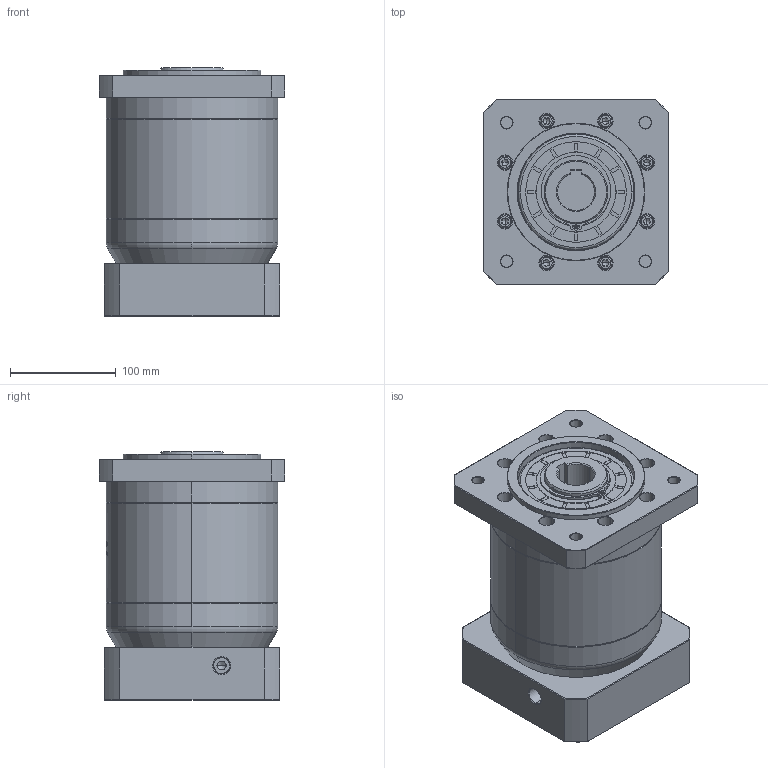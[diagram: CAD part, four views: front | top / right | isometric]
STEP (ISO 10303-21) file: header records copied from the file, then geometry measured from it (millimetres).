
FILE_DESCRIPTION (( 'STEP AP214' ), '1' );
FILE_NAME ('ZF160-K35-L2-32-130-165-M10.step', '2023-03-21T04:32:37', ( '' ), ( '' ), 'SwSTEP 2.0', 'SolidWorks 2016', '' );
FILE_SCHEMA (( 'AUTOMOTIVE_DESIGN' ));
Length unit declared in the file: millimetre
Products named in the file (1): ZF160-K35-L2-32-130-165-M10
Bounding box: 175 x 175 x 234.2 mm (x, y, z)
Volume: 4699770.2 mm3; surface area: 347368.4 mm2
Topology: 6 solids, 6 shells, 1579 faces, 4107 edges, 2631 vertices
Faces by surface type: plane 637, cylinder 389, cone 320, bspline 211, torus 22
Entity records: 86524 total; most frequent: CARTESIAN_POINT 32504, ORIENTED_EDGE 8158, DIRECTION 6955, EDGE_CURVE 4079, VERTEX_POINT 2631, AXIS2_PLACEMENT_3D 2410, LINE 2135, VECTOR 2135
